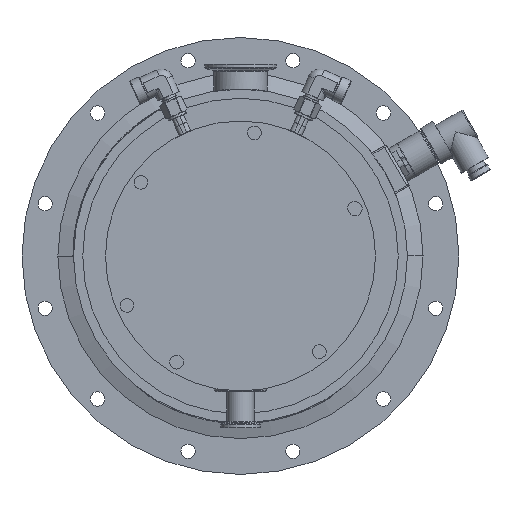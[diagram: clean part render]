
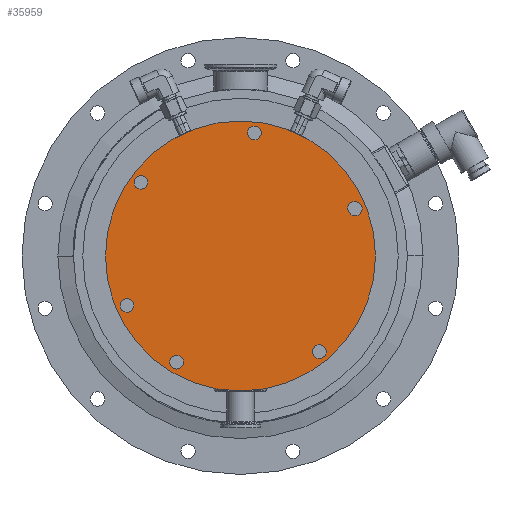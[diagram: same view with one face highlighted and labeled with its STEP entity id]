
A CAD part, front view. The second image highlights one B-rep face of the part: STEP entity #35959.
In plain terms, the highlighted planar face has unit normal (0, -1, 0).
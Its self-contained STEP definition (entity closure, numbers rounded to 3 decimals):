
#11514=CARTESIAN_POINT('',(0.,-7.7,0.));
#11515=DIRECTION('',(0.,-1.,0.));
#11516=DIRECTION('',(1.,0.,0.));
#11517=AXIS2_PLACEMENT_3D('',#11514,#11515,#11516);
#11725=CARTESIAN_POINT('',(0.,-7.7,0.));
#11726=DIRECTION('',(0.,1.,0.));
#11727=DIRECTION('',(1.,0.,0.));
#11728=AXIS2_PLACEMENT_3D('',#11725,#11726,#11727);
#12114=CARTESIAN_POINT('',(60.427,-7.7,-73.304));
#12115=DIRECTION('',(0.,-1.,0.));
#12116=DIRECTION('',(0.636,0.,-0.772));
#12117=AXIS2_PLACEMENT_3D('',#12114,#12115,#12116);
#12119=CARTESIAN_POINT('',(60.427,-7.7,-73.304));
#12120=DIRECTION('',(0.,-1.,0.));
#12121=DIRECTION('',(-0.636,0.,0.772));
#12122=AXIS2_PLACEMENT_3D('',#12119,#12120,#12121);
#12124=CARTESIAN_POINT('',(-48.929,-7.7,-81.431));
#12125=DIRECTION('',(0.,-1.,0.));
#12126=DIRECTION('',(-0.515,0.,-0.857));
#12127=AXIS2_PLACEMENT_3D('',#12124,#12125,#12126);
#12129=CARTESIAN_POINT('',(-48.929,-7.7,-81.431));
#12130=DIRECTION('',(0.,-1.,0.));
#12131=DIRECTION('',(0.515,0.,0.857));
#12132=AXIS2_PLACEMENT_3D('',#12129,#12130,#12131);
#12134=CARTESIAN_POINT('',(-87.121,-7.7,-37.881));
#12135=DIRECTION('',(0.,-1.,0.));
#12136=DIRECTION('',(-0.917,0.,-0.399));
#12137=AXIS2_PLACEMENT_3D('',#12134,#12135,#12136);
#12139=CARTESIAN_POINT('',(-87.121,-7.7,-37.881));
#12140=DIRECTION('',(0.,-1.,0.));
#12141=DIRECTION('',(0.917,0.,0.399));
#12142=AXIS2_PLACEMENT_3D('',#12139,#12140,#12141);
#12144=CARTESIAN_POINT('',(-76.366,-7.7,56.508));
#12145=DIRECTION('',(0.,-1.,0.));
#12146=DIRECTION('',(0.804,0.,-0.595));
#12147=AXIS2_PLACEMENT_3D('',#12144,#12145,#12146);
#12149=CARTESIAN_POINT('',(-76.366,-7.7,56.508));
#12150=DIRECTION('',(0.,-1.,0.));
#12151=DIRECTION('',(-0.804,0.,0.595));
#12152=AXIS2_PLACEMENT_3D('',#12149,#12150,#12151);
#12154=CARTESIAN_POINT('',(10.754,-7.7,94.389));
#12155=DIRECTION('',(0.,-1.,0.));
#12156=DIRECTION('',(-0.113,0.,-0.994));
#12157=AXIS2_PLACEMENT_3D('',#12154,#12155,#12156);
#12159=CARTESIAN_POINT('',(10.754,-7.7,94.389));
#12160=DIRECTION('',(0.,-1.,0.));
#12161=DIRECTION('',(0.113,0.,0.994));
#12162=AXIS2_PLACEMENT_3D('',#12159,#12160,#12161);
#12164=CARTESIAN_POINT('',(87.769,-7.7,36.355));
#12165=DIRECTION('',(0.,-1.,0.));
#12166=DIRECTION('',(0.959,0.,0.284));
#12167=AXIS2_PLACEMENT_3D('',#12164,#12165,#12166);
#12169=CARTESIAN_POINT('',(87.769,-7.7,36.355));
#12170=DIRECTION('',(0.,-1.,0.));
#12171=DIRECTION('',(-0.959,0.,-0.284));
#12172=AXIS2_PLACEMENT_3D('',#12169,#12170,#12171);
#21801=CARTESIAN_POINT('',(103.5,-7.7,0.));
#21803=VERTEX_POINT('',#21801);
#21833=CARTESIAN_POINT('',(-103.5,-7.7,0.));
#21835=VERTEX_POINT('',#21833);
#22832=CARTESIAN_POINT('',(63.767,-7.7,-77.355));
#22833=CARTESIAN_POINT('',(57.088,-7.7,-69.253));
#22834=VERTEX_POINT('',#22832);
#22835=VERTEX_POINT('',#22833);
#22836=CARTESIAN_POINT('',(-51.633,-7.7,-85.931));
#22837=CARTESIAN_POINT('',(-46.225,-7.7,-76.931));
#22838=VERTEX_POINT('',#22836);
#22839=VERTEX_POINT('',#22837);
#22840=CARTESIAN_POINT('',(-91.935,-7.7,-39.975));
#22841=CARTESIAN_POINT('',(-82.306,-7.7,-35.788));
#22842=VERTEX_POINT('',#22840);
#22843=VERTEX_POINT('',#22841);
#22844=CARTESIAN_POINT('',(-72.146,-7.7,53.385));
#22845=CARTESIAN_POINT('',(-80.587,-7.7,59.631));
#22846=VERTEX_POINT('',#22844);
#22847=VERTEX_POINT('',#22845);
#22848=CARTESIAN_POINT('',(10.16,-7.7,89.173));
#22849=CARTESIAN_POINT('',(11.349,-7.7,99.606));
#22850=VERTEX_POINT('',#22848);
#22851=VERTEX_POINT('',#22849);
#22856=CARTESIAN_POINT('',(93.042,-7.7,37.917));
#22857=CARTESIAN_POINT('',(82.495,-7.7,34.793));
#22858=VERTEX_POINT('',#22856);
#22859=VERTEX_POINT('',#22857);
#35914=CARTESIAN_POINT('',(0.,-7.7,0.));
#35915=DIRECTION('',(0.,-1.,0.));
#35916=DIRECTION('',(-1.,0.,0.));
#35917=AXIS2_PLACEMENT_3D('',#35914,#35915,#35916);
#35918=PLANE('',#35917);
#35919=ORIENTED_EDGE('',*,*,#35337,.T.);
#35920=ORIENTED_EDGE('',*,*,#35241,.F.);
#35921=EDGE_LOOP('',(#35919,#35920));
#35922=FACE_OUTER_BOUND('',#35921,.F.);
#35924=ORIENTED_EDGE('',*,*,#35923,.T.);
#35926=ORIENTED_EDGE('',*,*,#35925,.T.);
#35927=EDGE_LOOP('',(#35924,#35926));
#35928=FACE_BOUND('',#35927,.F.);
#35930=ORIENTED_EDGE('',*,*,#35929,.T.);
#35932=ORIENTED_EDGE('',*,*,#35931,.T.);
#35933=EDGE_LOOP('',(#35930,#35932));
#35934=FACE_BOUND('',#35933,.F.);
#35936=ORIENTED_EDGE('',*,*,#35935,.T.);
#35938=ORIENTED_EDGE('',*,*,#35937,.T.);
#35939=EDGE_LOOP('',(#35936,#35938));
#35940=FACE_BOUND('',#35939,.F.);
#35942=ORIENTED_EDGE('',*,*,#35941,.T.);
#35944=ORIENTED_EDGE('',*,*,#35943,.T.);
#35945=EDGE_LOOP('',(#35942,#35944));
#35946=FACE_BOUND('',#35945,.F.);
#35948=ORIENTED_EDGE('',*,*,#35947,.T.);
#35950=ORIENTED_EDGE('',*,*,#35949,.T.);
#35951=EDGE_LOOP('',(#35948,#35950));
#35952=FACE_BOUND('',#35951,.F.);
#35954=ORIENTED_EDGE('',*,*,#35953,.T.);
#35956=ORIENTED_EDGE('',*,*,#35955,.T.);
#35957=EDGE_LOOP('',(#35954,#35956));
#35958=FACE_BOUND('',#35957,.F.);
#35959=ADVANCED_FACE('',(#35922,#35928,#35934,#35940,#35946,#35952,#35958),
#35918,.T.);
#11518=CIRCLE('',#11517,103.5);
#11729=CIRCLE('',#11728,103.5);
#12118=CIRCLE('',#12117,5.25);
#12123=CIRCLE('',#12122,5.25);
#12128=CIRCLE('',#12127,5.25);
#12133=CIRCLE('',#12132,5.25);
#12138=CIRCLE('',#12137,5.25);
#12143=CIRCLE('',#12142,5.25);
#12148=CIRCLE('',#12147,5.25);
#12153=CIRCLE('',#12152,5.25);
#12158=CIRCLE('',#12157,5.25);
#12163=CIRCLE('',#12162,5.25);
#12168=CIRCLE('',#12167,5.5);
#12173=CIRCLE('',#12172,5.5);
#35241=EDGE_CURVE('',#21803,#21835,#11518,.T.);
#35337=EDGE_CURVE('',#21803,#21835,#11729,.T.);
#35923=EDGE_CURVE('',#22834,#22835,#12118,.T.);
#35925=EDGE_CURVE('',#22835,#22834,#12123,.T.);
#35929=EDGE_CURVE('',#22838,#22839,#12128,.T.);
#35931=EDGE_CURVE('',#22839,#22838,#12133,.T.);
#35935=EDGE_CURVE('',#22842,#22843,#12138,.T.);
#35937=EDGE_CURVE('',#22843,#22842,#12143,.T.);
#35941=EDGE_CURVE('',#22846,#22847,#12148,.T.);
#35943=EDGE_CURVE('',#22847,#22846,#12153,.T.);
#35947=EDGE_CURVE('',#22850,#22851,#12158,.T.);
#35949=EDGE_CURVE('',#22851,#22850,#12163,.T.);
#35953=EDGE_CURVE('',#22858,#22859,#12168,.T.);
#35955=EDGE_CURVE('',#22859,#22858,#12173,.T.);
